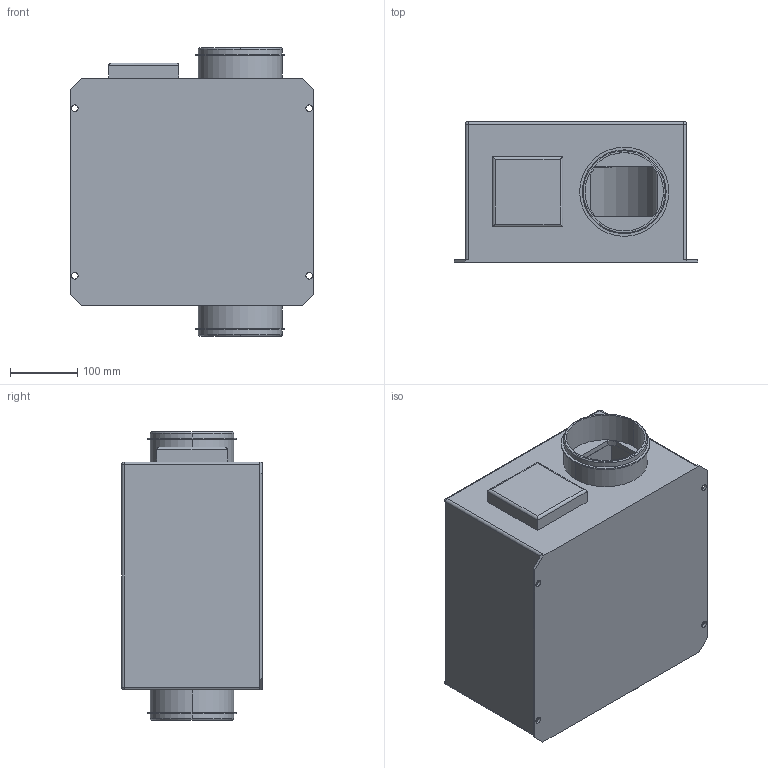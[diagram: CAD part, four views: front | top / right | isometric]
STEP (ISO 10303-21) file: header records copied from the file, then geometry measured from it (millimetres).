
FILE_DESCRIPTION(('STEP AP214'),'1');
FILE_NAME('fan_5113220700.stp','2017-03-31T12:39:26',('TraceParts'),('TraceParts S.A.'),'Spatial InterOp 3D',' ',' ');
FILE_SCHEMA(('automotive_design'));
Length unit declared in the file: millimetre
Products named in the file (1): fan_5113220700
Bounding box: 364 x 210 x 430 mm (x, y, z)
Volume: 4824395.4 mm3; surface area: 1363837 mm2
Topology: 1 solids, 1 shells, 108 faces, 269 edges, 172 vertices
Faces by surface type: cylinder 54, plane 46, torus 4, sphere 4
Entity records: 4067 total; most frequent: DIRECTION 601, CARTESIAN_POINT 546, ORIENTED_EDGE 530, EDGE_CURVE 265, AXIS2_PLACEMENT_3D 227, VERTEX_POINT 172, LINE 147, VECTOR 147
